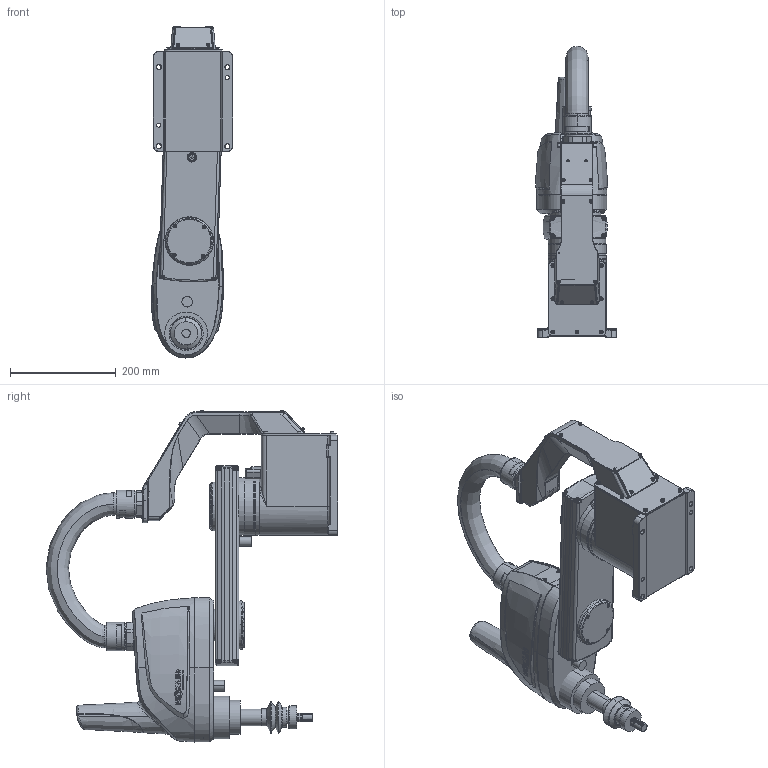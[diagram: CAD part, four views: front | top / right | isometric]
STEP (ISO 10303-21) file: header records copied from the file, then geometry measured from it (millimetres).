
FILE_DESCRIPTION (( 'STEP AP214' ), '1' );
FILE_NAME ('MB04SC-40000Íâ·¢Ä£ÐÍ.STEP', '2024-11-06T09:08:41', ( 'abc' ), ( '' ), 'SwSTEP 2.0', 'SolidWorks 2020', '' );
FILE_SCHEMA (( 'AUTOMOTIVE_DESIGN' ));
Length unit declared in the file: millimetre
Products named in the file (6): MB04SC-440000 J4俋楷耀倰1; MB04SC-40000俋楷耀倰; MB04SC-430000 J3俋楷耀倰; MB04SC-420000 J2俋楷耀倰; MB10SC-650000俋楷耀倰; MB04SC-410000 J1俋楷耀倰
Assembly tree (5 placements, depth 2):
  MB04SC-40000俋楷耀倰
    MB04SC-410000 J1俋楷耀倰
    MB04SC-420000 J2俋楷耀倰
    MB04SC-430000 J3俋楷耀倰
    MB04SC-440000 J4俋楷耀倰1
    MB10SC-650000俋楷耀倰
Bounding box: 154.01 x 553.22 x 629.37 mm (x, y, z)
Volume: 7098198.1 mm3; surface area: 763423.8 mm2
Topology: 11 solids, 121 shells, 2728 faces, 7482 edges, 4963 vertices
Faces by surface type: cylinder 949, plane 797, bspline 631, cone 283, torus 52, sphere 16
Entity records: 421395 total; most frequent: CARTESIAN_POINT 357733, ORIENTED_EDGE 13827, DIRECTION 10643, EDGE_CURVE 7333, VERTEX_POINT 4957, AXIS2_PLACEMENT_3D 4071, EDGE_LOOP 2982, B_SPLINE_CURVE_WITH_KNOTS 2766
